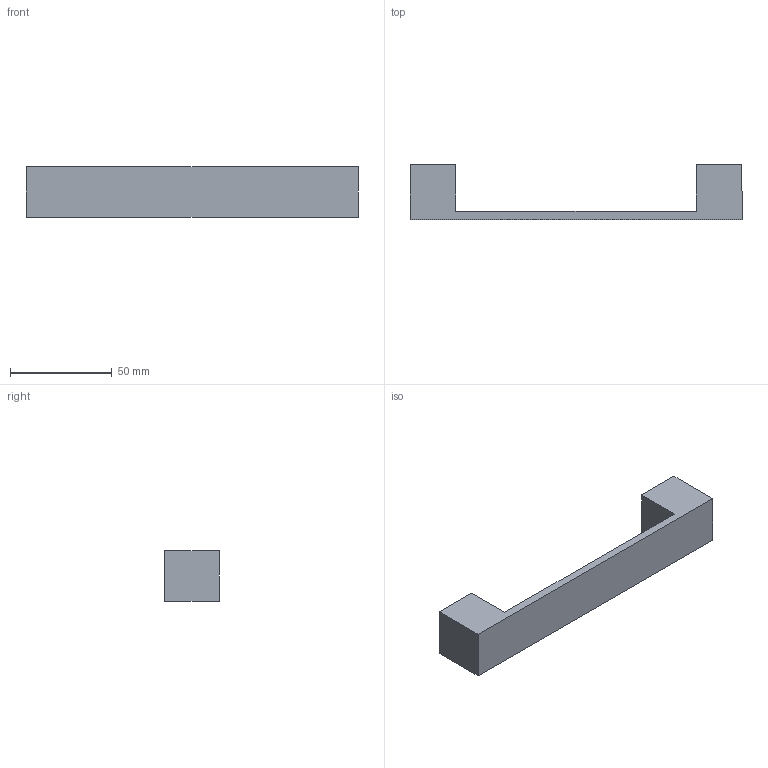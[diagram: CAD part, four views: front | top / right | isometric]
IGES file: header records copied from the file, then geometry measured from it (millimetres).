
Start section: Data from Parasolid IGES Translator 20.0.26, Copyright(c) 2006 Siemens P LM Software. All Rights Reserved.
Global section: file name: 9268262.igs; native system: By Siemens PLM Incorporated; preprocessor: XPlus GENERIC/IGES 20.0.26; author: Noname; organization: Noname; date: 20201112.111937; units: millimetre
Bounding box: 163 x 27 x 25 mm (x, y, z)
Surface area: 14687.4 mm2 (no closed solid volume)
Topology: 0 solids, 0 shells, 19 faces, 90 edges, 88 vertices
Faces by surface type: extrusion 13, revolution 6
